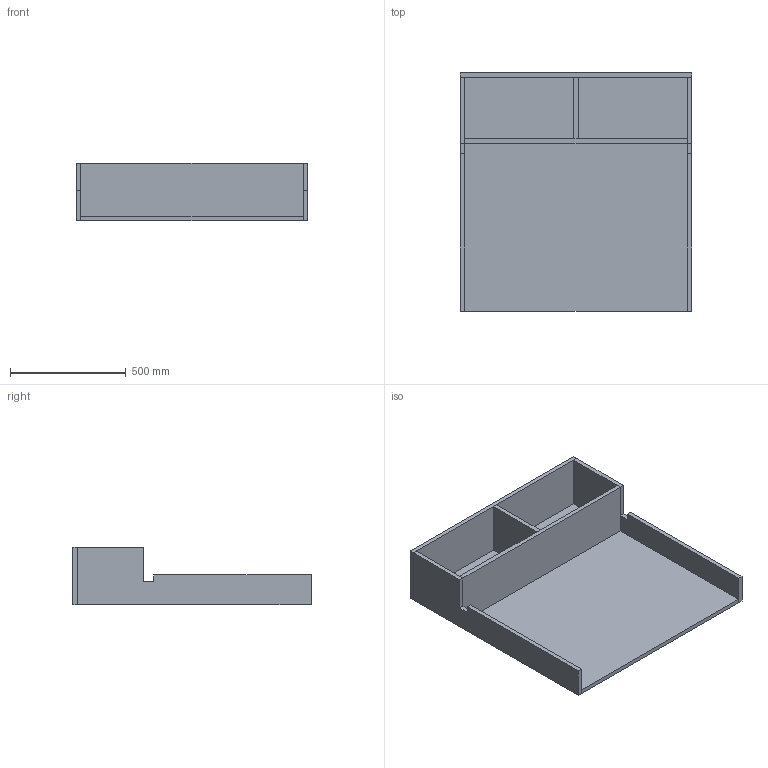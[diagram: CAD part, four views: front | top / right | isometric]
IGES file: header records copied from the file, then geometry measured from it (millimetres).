
Start section: SolidWorks IGES file using NURBS representation for surfaces
Global section: file name: G:\VICCARBE\PRODUCTOS\12-LEG-IN\04-MODELADOS (PLANOS)\SOLIDWORKS\LEG_IN 2011\ENSAMBLAJES\Mesas 3D\IGES\ACCESORIES\VICCARBE_LEMTR.IGS; native system: SolidWorks 2009; preprocessor: SolidWorks 2009; author: RUBEN; date: 111024.104323; units: millimetre
Bounding box: 1000 x 1030 x 250 mm (x, y, z)
Surface area: 3955410 mm2 (no closed solid volume)
Topology: 0 solids, 0 shells, 44 faces, 192 edges, 192 vertices
Faces by surface type: bspline 44
